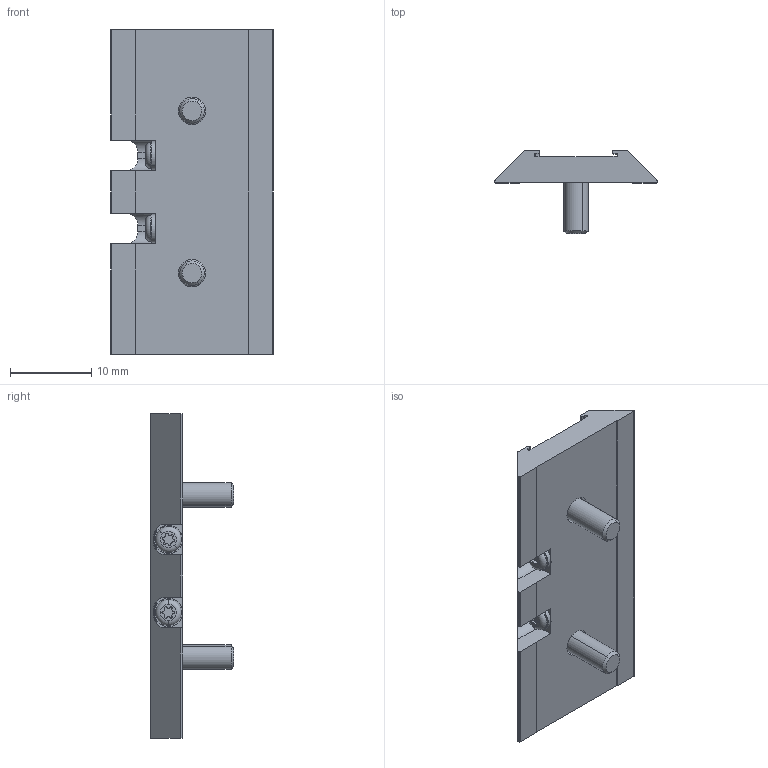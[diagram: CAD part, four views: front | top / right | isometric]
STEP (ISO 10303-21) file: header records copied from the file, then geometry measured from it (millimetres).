
FILE_DESCRIPTION (( 'STEP AP214' ), '1' );
FILE_NAME ('TRE004A01D02_00.STEP', '2024-10-03T09:19:42', ( '' ), ( '' ), 'SwSTEP 2.0', 'SolidWorks 2022', '' );
FILE_SCHEMA (( 'AUTOMOTIVE_DESIGN' ));
Length unit declared in the file: millimetre
Products named in the file (1): TRE004A01D02_00
Bounding box: 20 x 10.25 x 40 mm (x, y, z)
Volume: 2236.1 mm3; surface area: 2607.1 mm2
Topology: 5 solids, 5 shells, 284 faces, 778 edges, 510 vertices
Faces by surface type: cylinder 202, plane 58, cone 12, torus 8, bspline 4
Entity records: 15359 total; most frequent: CARTESIAN_POINT 5102, ORIENTED_EDGE 1548, DIRECTION 1404, EDGE_CURVE 774, AXIS2_PLACEMENT_3D 539, VERTEX_POINT 510, VECTOR 326, LINE 326
